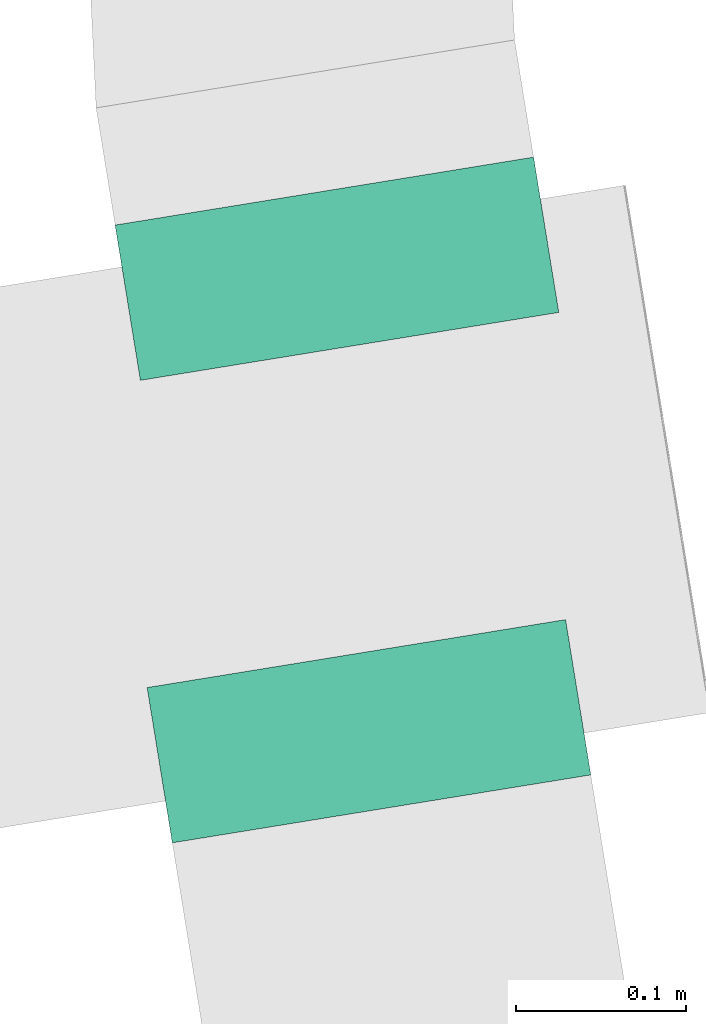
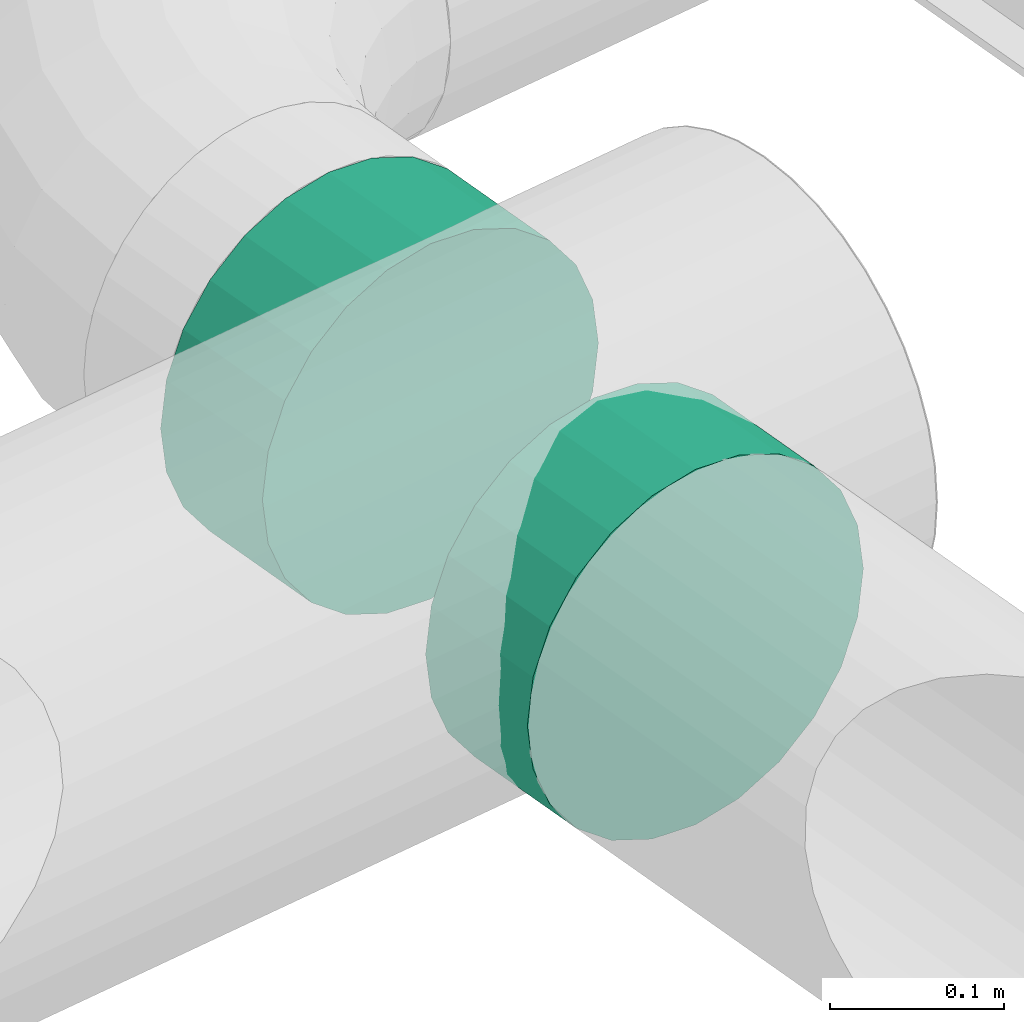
# One storey, part 22 of 39: 2 flow fittings.
"""IFC2X3 building model written with IfcOpenShell, lengths in millimetres."""

import ifcopenshell
import ifcopenshell.guid

model = None  # the IFC model being written
_history = None  # IfcOwnerHistory: only IFC2X3 demands one
_inside = {}  # id of a spatial element -> (the spatial element, [elements in it])
_under = {}  # id of a project, library or spatial element -> (it, [spatial elements below it])
_declared = {}  # id of a project -> (the project, [libraries it declares])
_typed = {}  # id of a type object -> (the type object, [elements of that type])
_made_of = {}  # id of a material, layer set ... -> (it, [elements and type objects made of it])


def new_model(schema):
    """Start an empty IFC model of exactly this schema.

    Asked for "IFC4X3", IfcOpenShell would pick the latest addendum, in which some entities
    have other attributes; the version numbers below select the first issue.
    IFC2X3 requires an IfcOwnerHistory on every rooted entity: one is made here for all.
    """
    global model, _history
    if schema == "IFC4X3":
        model = ifcopenshell.file(schema_version=(4, 3, 0, 0))
    else:
        model = ifcopenshell.file(schema=schema)
    _inside.clear()
    _under.clear()
    _declared.clear()
    _typed.clear()
    _made_of.clear()
    _history = None
    if model.schema == "IFC2X3":
        org = make("IfcOrganization", Name="unknown")
        user = make(
            "IfcPersonAndOrganization",
            ThePerson=make("IfcPerson", FamilyName="unknown"),
            TheOrganization=org,
        )
        app = make(
            "IfcApplication",
            ApplicationDeveloper=org,
            Version="unknown",
            ApplicationFullName="unknown",
            ApplicationIdentifier="unknown",
        )
        _history = make(
            "IfcOwnerHistory",
            OwningUser=user,
            OwningApplication=app,
            ChangeAction="ADDED",
            CreationDate=0,
        )
    return model


def make(cls, **values):
    """One entity of the class cls with the attributes given. An attribute that is None is left unset."""
    return model.create_entity(
        cls, **{name: value for name, value in values.items() if value is not None}
    )


def entity(cls, *values):
    """Any entity or typed value of the class cls, its attributes in the order of the schema. None: left unset."""
    e = model.create_entity(cls)
    for i, value in enumerate(values):
        if value is not None:
            e[i] = value
    return e


def rooted(cls, **values):
    """An entity with a GlobalId (a new one), such as an element, a storey or a relation."""
    return make(cls, GlobalId=ifcopenshell.guid.new(), OwnerHistory=_history, **values)


def si_unit(unit_type, name, prefix=None):
    """IfcSIUnit, for example si_unit("LENGTHUNIT", "METRE", prefix="MILLI")."""
    return make("IfcSIUnit", UnitType=unit_type, Prefix=prefix, Name=name)


def converted_unit(unit_type, name, factor, base, dimensions=None, offset=None):
    """IfcConversionBasedUnit, such as the inch: factor (a typed value) times the base unit."""
    return make(
        "IfcConversionBasedUnit"
        if offset is None
        else "IfcConversionBasedUnitWithOffset",
        ConversionOffset=offset,
        Dimensions=None
        if dimensions is None
        else entity("IfcDimensionalExponents", *dimensions),
        UnitType=unit_type,
        Name=name,
        ConversionFactor=make(
            "IfcMeasureWithUnit", ValueComponent=factor, UnitComponent=base
        ),
    )


def derived_unit(unit_type, elements):
    """IfcDerivedUnit: a product of units, each with its exponent."""
    return make(
        "IfcDerivedUnit",
        Elements=[
            make("IfcDerivedUnitElement", Unit=unit, Exponent=power)
            for unit, power in elements
        ],
        UnitType=unit_type,
    )


def assignment(units):
    """IfcUnitAssignment: the units of a project."""
    return None if units is None else make("IfcUnitAssignment", Units=units)


def point(xyz):
    """IfcCartesianPoint."""
    return None if xyz is None else make("IfcCartesianPoint", Coordinates=xyz)


def direction(xyz):
    """IfcDirection."""
    return None if xyz is None else make("IfcDirection", DirectionRatios=xyz)


def frame(location, z_axis=None, x_axis=None):
    """IfcAxis2Placement3D, a coordinate frame: its origin and axes. An axis left out is left unset."""
    return make(
        "IfcAxis2Placement3D",
        Location=point(location),
        Axis=direction(z_axis),
        RefDirection=direction(x_axis),
    )


def origin():
    """The frame at (0, 0, 0) with its axes left unset."""
    return frame((0.0, 0.0, 0.0))


def origin_with_axes():
    """The frame at (0, 0, 0) with the z axis (0, 0, 1) and the x axis (1, 0, 0) written out."""
    return frame((0.0, 0.0, 0.0), z_axis=(0.0, 0.0, 1.0), x_axis=(1.0, 0.0, 0.0))


def place(relative_to, where):
    """IfcLocalPlacement: puts the frame where relative to a parent placement (None: the world)."""
    return make(
        "IfcLocalPlacement", PlacementRelTo=relative_to, RelativePlacement=where
    )


def context(
    kind, dimensions, precision=None, world=None, true_north=None, identifier=None
):
    """IfcGeometricRepresentationContext, for example the 3D "Model" context."""
    return make(
        "IfcGeometricRepresentationContext",
        ContextIdentifier=identifier,
        ContextType=kind,
        CoordinateSpaceDimension=dimensions,
        Precision=precision,
        WorldCoordinateSystem=world,
        TrueNorth=true_north,
    )


def subcontext(parent, identifier, kind, view, scale=None):
    """IfcGeometricRepresentationSubContext, for example "Body" below "Model"."""
    return make(
        "IfcGeometricRepresentationSubContext",
        ContextIdentifier=identifier,
        ContextType=kind,
        ParentContext=parent,
        TargetScale=scale,
        TargetView=view,
    )


def project(units=None, contexts=None):
    """IfcProject with its units and contexts."""
    return rooted(
        "IfcProject",
        Name="project",
        RepresentationContexts=contexts,
        UnitsInContext=assignment(units),
    )


def spatial(cls, under=None, at=None, **own):
    """A site, building, storey or space (cls), placed at a placement, below another one or the project."""
    s = rooted(cls, ObjectPlacement=at, **own)
    if under is not None:
        _under.setdefault(under.id(), (under, []))[1].append(s)
    return s


def faces_of(points, faces, orient=None, outer=None):
    """IfcFace entities. A face is a list of loops; a loop is a list of indices into points, from 0.

    orient and outer hold one flag for each loop. By default every Orientation is true, the
    first loop of a face is its IfcFaceOuterBound and the others are IfcFaceBound.
    """
    made = []
    for i, loops in enumerate(faces):
        bounds = []
        for j, loop in enumerate(loops):
            is_outer = j == 0 if outer is None else outer[i][j]
            bounds.append(
                make(
                    "IfcFaceOuterBound" if is_outer else "IfcFaceBound",
                    Bound=make("IfcPolyLoop", Polygon=[points[k] for k in loop]),
                    Orientation=True if orient is None else orient[i][j],
                )
            )
        made.append(make("IfcFace", Bounds=bounds))
    return made


def faceted_brep(points, faces, orient=None, outer=None, voids=None):
    """IfcFacetedBrep: a solid bounded by flat faces; with voids (closed shells), ...WithVoids."""
    shared = [point(p) for p in points]
    hull = make("IfcClosedShell", CfsFaces=faces_of(shared, faces, orient, outer))
    if voids is None:
        return make("IfcFacetedBrep", Outer=hull)
    return make(
        "IfcFacetedBrepWithVoids",
        Outer=hull,
        Voids=[
            make(cls, CfsFaces=faces_of(shared, fs, o, b)) for cls, fs, o, b in voids
        ],
    )


def shape(context_of_items, identifier, shape_type, items):
    """IfcShapeRepresentation: the items that make up one representation, for example the "Body"."""
    return make(
        "IfcShapeRepresentation",
        ContextOfItems=context_of_items,
        RepresentationIdentifier=identifier,
        RepresentationType=shape_type,
        Items=items,
    )


def source(mapping_origin, context_of_items, identifier, shape_type, items):
    """IfcRepresentationMap: a shape defined once, which mapped items show again and again."""
    return make(
        "IfcRepresentationMap",
        MappingOrigin=mapping_origin,
        MappedRepresentation=shape(context_of_items, identifier, shape_type, items),
    )


def transform(
    local_origin,
    x_axis=None,
    y_axis=None,
    z_axis=None,
    scale=None,
    scale2=None,
    scale3=None,
    uniform=True,
):
    """IfcCartesianTransformationOperator3D, or its non-uniform kind. x_axis, y_axis, z_axis: its Axis1, 2, 3."""
    if uniform:
        return make(
            "IfcCartesianTransformationOperator3D",
            Axis1=direction(x_axis),
            Axis2=direction(y_axis),
            LocalOrigin=point(local_origin),
            Scale=scale,
            Axis3=direction(z_axis),
        )
    return make(
        "IfcCartesianTransformationOperator3DnonUniform",
        Axis1=direction(x_axis),
        Axis2=direction(y_axis),
        LocalOrigin=point(local_origin),
        Scale=scale,
        Axis3=direction(z_axis),
        Scale2=scale2,
        Scale3=scale3,
    )


def mapped(mapping_source, mapping_target):
    """IfcMappedItem: shows the shape of a source again, moved by a transform."""
    return make(
        "IfcMappedItem", MappingSource=mapping_source, MappingTarget=mapping_target
    )


def material(Name=None, Category=None):
    """IfcMaterial."""
    return make("IfcMaterial", Name=Name, Category=Category)


def made_of(thing, what):
    """Note that an element or type object is made of a material, layer set ...; save() writes the relation."""
    if what is not None:
        _made_of.setdefault(what.id(), (what, []))[1].append(thing)
    return thing


def type_object(cls, material=None, **own):
    """A type object (cls), such as IfcWallType, which elements share."""
    return made_of(rooted(cls, **own), material)


def element(
    cls,
    number,
    at=None,
    inside=None,
    cuts=None,
    type_object=None,
    material=None,
    context=None,
    identifier="Body",
    shape_type=None,
    held_by="IfcProductDefinitionShape",
    body=None,
    shapes=None,
    **own,
):
    """One element of the class cls, such as IfcWall. Its Tag is "e" and its number.

    at: its placement. inside: the storey or other place that contains it. cuts: it is an
    opening in that element (IfcRelVoidsElement). A single representation is given by context,
    identifier, shape_type and body (its items); several are given by shapes. held_by: the class
    of the entity that holds the representations. save() writes the other relations.
    """
    e = rooted(cls, Tag="e%d" % number, ObjectPlacement=at, **own)
    if body is not None:
        shapes = [shape(context, identifier, shape_type, body)]
    if shapes is not None:
        e.Representation = make(held_by, Representations=shapes)
    if inside is not None:
        _inside.setdefault(inside.id(), (inside, []))[1].append(e)
    if cuts is not None:
        rooted(
            "IfcRelVoidsElement", RelatingBuildingElement=cuts, RelatedOpeningElement=e
        )
    if type_object is not None:
        _typed.setdefault(type_object.id(), (type_object, []))[1].append(e)
    return made_of(e, material)


def aggregate(whole, parts):
    """IfcRelAggregates: a whole, such as a stair, and the parts it consists of."""
    return rooted("IfcRelAggregates", RelatingObject=whole, RelatedObjects=parts)


def save(model, path):
    """Write the relations noted so far, then the file.

    IfcRelAggregates (storeys below a building ...), IfcRelContainedInSpatialStructure (elements
    in a storey), IfcRelDefinesByType, IfcRelAssociatesMaterial and IfcRelDeclares: one each for
    every whole, place, type object, material and project.
    """
    for whole, parts in _under.values():
        aggregate(whole, parts)
    for where, things in _inside.values():
        rooted(
            "IfcRelContainedInSpatialStructure",
            RelatedElements=things,
            RelatingStructure=where,
        )
    for kind, things in _typed.values():
        rooted("IfcRelDefinesByType", RelatedObjects=things, RelatingType=kind)
    for what, things in _made_of.values():
        rooted("IfcRelAssociatesMaterial", RelatedObjects=things, RelatingMaterial=what)
    for by, libraries in _declared.values():
        rooted("IfcRelDeclares", RelatingContext=by, RelatedDefinitions=libraries)
    model.write(path)


model = new_model("IFC2X3")

# Units and contexts
plan_context = context("Plan", 3, precision=1e-05, world=origin_with_axes())
model_context = context("Model", 3, precision=0.01, world=origin(), true_north=direction((6.12323399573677e-17, 1.0)))
body_context = subcontext(model_context, "Body", "Model", "MODEL_VIEW")
ifc_project = project(units=[converted_unit("PLANEANGLEUNIT", "DEGREE", entity("IfcPositiveLengthMeasure", 0.0174532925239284), si_unit("PLANEANGLEUNIT", "RADIAN"), dimensions=[0, 0, 0, 0, 0, 0, 0]), si_unit("AREAUNIT", "SQUARE_METRE"), si_unit("LENGTHUNIT", "METRE", prefix="MILLI"), si_unit("MASSUNIT", "GRAM", prefix="KILO"), si_unit("POWERUNIT", "WATT"), si_unit("PRESSUREUNIT", "PASCAL", prefix="KILO"), si_unit("FORCEUNIT", "NEWTON", prefix="KILO"), si_unit("ELECTRICVOLTAGEUNIT", "VOLT"), si_unit("ELECTRICCURRENTUNIT", "AMPERE"), si_unit("THERMODYNAMICTEMPERATUREUNIT", "DEGREE_CELSIUS"), si_unit("TIMEUNIT", "SECOND"), si_unit("VOLUMEUNIT", "CUBIC_METRE"), derived_unit("LINEARVELOCITYUNIT", [(si_unit("LENGTHUNIT", "METRE"), 1), (si_unit("TIMEUNIT", "SECOND"), -1)]), derived_unit("VOLUMETRICFLOWRATEUNIT", [(si_unit("VOLUMEUNIT", "CUBIC_METRE"), 1), (si_unit("TIMEUNIT", "SECOND"), -1)]), derived_unit("THERMALTRANSMITTANCEUNIT", [(si_unit("POWERUNIT", "WATT"), 1), (si_unit("THERMODYNAMICTEMPERATUREUNIT", "KELVIN"), -1), (si_unit("AREAUNIT", "SQUARE_METRE"), -1)]), derived_unit("SOUNDPRESSUREUNIT", [(si_unit("PRESSUREUNIT", "PASCAL"), 1)])], contexts=[model_context, plan_context])

# Site, building, storey
site_placement = place(None, frame((-0.00071070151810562, 0.00438415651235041, 0.0), z_axis=(0.0, 0.0, 1.0), x_axis=(-0.160236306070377, 0.987078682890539, 0.0)))
site = spatial("IfcSite", under=ifc_project, at=site_placement, Name="Default", CompositionType="ELEMENT")
building_placement = place(site_placement, origin_with_axes())
building = spatial("IfcBuilding", under=site, at=building_placement, CompositionType="ELEMENT")
storey_placement = place(building_placement, frame((0.0, 0.0, 58999.9999999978), z_axis=(0.0, 0.0, 1.0), x_axis=(1.0, 0.0, 0.0)))
storey = spatial("IfcBuildingStorey", under=building, at=storey_placement, Name="Nivå F", CompositionType="ELEMENT", Elevation=58999.9999999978)

# Flow fittings
ifc_material = material(Name="<Unnamed>")
duct_fitting_type_1 = type_object("IfcDuctFittingType", Name="magicirc_tapoutlet_1:magicirc_tapoutlet_001", PredefinedType="NOTDEFINED", material=ifc_material)
shared_shape_1 = source(origin(), body_context, "Body", "Brep", [
    faceted_brep([(-67.7771605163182, 0.0, -125.0), (-67.7771605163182, -32.3523806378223, -120.740728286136), (-67.7771605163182, -62.5000000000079, -108.253175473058), (-67.7771605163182, -88.388347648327, -88.3883476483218), (-67.7771605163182, -108.253175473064, -62.5000000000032), (-67.7771605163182, -120.740728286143, -32.352380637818), (-67.7771605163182, -125.0, 0.0), (-67.7771605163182, -120.740728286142, 32.3523806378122), (-67.7771605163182, -108.253175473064, 62.4999999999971), (-67.7771605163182, -88.3883476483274, 88.3883476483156), (-67.7771605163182, -62.5000000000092, 108.253175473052), (-67.7771605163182, -32.3523806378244, 120.740728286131), (-67.7771605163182, 0.0, 125.0), (-67.7771605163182, 32.3523806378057, 120.740728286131), (-67.7771605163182, 62.4999999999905, 108.253175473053), (-67.7771605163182, 88.388347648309, 88.3883476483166), (-67.7771605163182, 108.253175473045, 62.4999999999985), (-67.7771605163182, 120.740728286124, 32.3523806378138), (-67.7771605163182, 125.0, 0.0), (-67.7771605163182, 120.740728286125, -32.3523806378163), (-67.7771605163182, 108.253175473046, -62.500000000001), (-67.7771605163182, 88.3883476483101, -88.3883476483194), (-67.7771605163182, 62.4999999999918, -108.253175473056), (-67.7771605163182, 32.3523806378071, -120.740728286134), (0.0, 0.0, 125.0), (25.0, 0.0, 125.0), (25.0, 32.3523806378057, 120.740728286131), (0.0, 32.3523806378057, 120.740728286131), (25.0, 62.4999999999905, 108.253175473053), (0.0, 62.4999999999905, 108.253175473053), (25.0, 88.388347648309, 88.3883476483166), (0.0, 88.388347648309, 88.3883476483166), (0.0, 108.253175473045, 62.4999999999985), (25.0, 108.253175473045, 62.4999999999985), (25.0, 120.740728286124, 32.3523806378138), (0.0, 120.740728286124, 32.3523806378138), (25.0, 125.0, 0.0), (0.0, 125.0, 0.0), (25.0, 120.740728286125, -32.3523806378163), (0.0, 120.740728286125, -32.3523806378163), (25.0, 108.253175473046, -62.500000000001), (0.0, 108.253175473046, -62.500000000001), (25.0, 88.3883476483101, -88.3883476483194), (0.0, 88.3883476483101, -88.3883476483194), (0.0, 62.4999999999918, -108.253175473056), (25.0, 62.4999999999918, -108.253175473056), (25.0, 32.3523806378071, -120.740728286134), (0.0, 32.3523806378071, -120.740728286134), (25.0, 0.0, -125.0), (0.0, 0.0, -125.0), (25.0, -32.3523806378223, -120.740728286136), (0.0, -32.3523806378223, -120.740728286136), (25.0, -62.5000000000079, -108.253175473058), (0.0, -62.5000000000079, -108.253175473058), (25.0, -88.388347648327, -88.3883476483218), (0.0, -88.388347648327, -88.3883476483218), (0.0, -108.253175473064, -62.5000000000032), (25.0, -108.253175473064, -62.5000000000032), (25.0, -120.740728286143, -32.352380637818), (0.0, -120.740728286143, -32.352380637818), (25.0, -125.0, 0.0), (0.0, -125.0, 0.0), (25.0, -120.740728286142, 32.3523806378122), (0.0, -120.740728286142, 32.3523806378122), (25.0, -108.253175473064, 62.4999999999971), (0.0, -108.253175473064, 62.4999999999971), (25.0, -88.3883476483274, 88.3883476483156), (0.0, -88.3883476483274, 88.3883476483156), (0.0, -62.5000000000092, 108.253175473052), (25.0, -62.5000000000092, 108.253175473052), (25.0, -32.3523806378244, 120.740728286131), (0.0, -32.3523806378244, 120.740728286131)], [[[0, 1, 2, 3, 4, 5, 6, 7, 8, 9, 10, 11, 12, 13, 14, 15, 16, 17, 18, 19, 20, 21, 22, 23]], [[12, 24, 25, 26, 27, 13]], [[13, 27, 26, 28, 29, 14]], [[15, 14, 29, 28, 30, 31]], [[17, 16, 32, 33, 34, 35]], [[18, 17, 35, 34, 36, 37]], [[15, 31, 30, 33, 32, 16]], [[18, 37, 36, 38, 39, 19]], [[19, 39, 38, 40, 41, 20]], [[21, 20, 41, 40, 42, 43]], [[23, 22, 44, 45, 46, 47]], [[0, 23, 47, 46, 48, 49]], [[21, 43, 42, 45, 44, 22]], [[0, 49, 48, 50, 51, 1]], [[1, 51, 50, 52, 53, 2]], [[3, 2, 53, 52, 54, 55]], [[5, 4, 56, 57, 58, 59]], [[6, 5, 59, 58, 60, 61]], [[3, 55, 54, 57, 56, 4]], [[6, 61, 60, 62, 63, 7]], [[7, 63, 62, 64, 65, 8]], [[9, 8, 65, 64, 66, 67]], [[11, 10, 68, 69, 70, 71]], [[12, 11, 71, 70, 25, 24]], [[9, 67, 66, 69, 68, 10]], [[34, 33, 30, 28, 26, 25, 70, 69, 66, 64, 62, 60, 58, 57, 54, 52, 50, 48, 46, 45, 42, 40, 38, 36]]]),
    faceted_brep([(25.0, 125.0, 0.0), (25.0, 120.740728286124, 32.3523806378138), (25.0, 108.253175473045, 62.4999999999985), (25.0, 88.3883476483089, 88.3883476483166), (25.0, 62.4999999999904, 108.253175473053), (25.0, 32.3523806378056, 120.740728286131), (25.0, 0.0, 125.0), (25.0, -32.3523806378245, 120.740728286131), (25.0, -62.5000000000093, 108.253175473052), (25.0, -88.3883476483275, 88.3883476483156), (25.0, -108.253175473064, 62.4999999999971), (25.0, -120.740728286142, 32.3523806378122), (25.0, -125.0, 0.0), (25.0, -120.740728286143, -32.352380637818), (25.0, -108.253175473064, -62.5000000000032), (25.0, -88.3883476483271, -88.3883476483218), (25.0, -62.500000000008, -108.253175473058), (25.0, -32.3523806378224, -120.740728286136), (25.0, 0.0, -125.0), (25.0, 32.352380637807, -120.740728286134), (25.0, 62.4999999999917, -108.253175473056), (25.0, 88.38834764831, -88.3883476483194), (25.0, 108.253175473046, -62.500000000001), (25.0, 120.740728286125, -32.3523806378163), (0.0, 0.0, 125.0), (0.0, 32.3523806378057, 120.740728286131), (-67.7771605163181, 32.3523806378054, 120.740728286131), (-67.7771605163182, 0.0, 125.0), (0.0, 62.4999999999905, 108.253175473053), (-67.777160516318, 62.4999999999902, 108.253175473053), (0.0, 88.388347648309, 88.3883476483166), (-67.777160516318, 88.3883476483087, 88.3883476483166), (0.0, 108.253175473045, 62.4999999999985), (0.0, 120.740728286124, 32.3523806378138), (-67.7771605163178, 120.740728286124, 32.3523806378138), (-67.7771605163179, 108.253175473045, 62.4999999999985), (0.0, 125.0, 0.0), (-67.7771605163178, 125.0, 0.0), (0.0, 120.740728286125, -32.3523806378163), (-67.7771605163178, 120.740728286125, -32.3523806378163), (0.0, 108.253175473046, -62.500000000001), (-67.7771605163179, 108.253175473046, -62.500000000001), (0.0, 88.38834764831, -88.3883476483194), (-67.777160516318, 88.3883476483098, -88.3883476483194), (0.0, 0.0, -125.0), (-67.7771605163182, 0.0, -125.0), (-67.7771605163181, 32.3523806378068, -120.740728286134), (0.0, 32.352380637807, -120.740728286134), (-67.777160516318, 62.4999999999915, -108.253175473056), (0.0, 62.4999999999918, -108.253175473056), (0.0, -32.3523806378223, -120.740728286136), (-67.7771605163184, -32.3523806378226, -120.740728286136), (0.0, -62.5000000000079, -108.253175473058), (-67.7771605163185, -62.5000000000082, -108.253175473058), (0.0, -88.388347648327, -88.3883476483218), (-67.7771605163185, -88.3883476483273, -88.3883476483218), (0.0, -108.253175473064, -62.5000000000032), (0.0, -120.740728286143, -32.352380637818), (-67.7771605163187, -120.740728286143, -32.352380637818), (-67.7771605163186, -108.253175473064, -62.5000000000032), (0.0, -125.0, 0.0), (-67.7771605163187, -125.0, 0.0), (0.0, -120.740728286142, 32.3523806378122), (-67.7771605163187, -120.740728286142, 32.3523806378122), (0.0, -108.253175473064, 62.499999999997), (-67.7771605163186, -108.253175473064, 62.4999999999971), (0.0, -88.3883476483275, 88.3883476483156), (-67.7771605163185, -88.3883476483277, 88.3883476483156), (0.0, -62.5000000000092, 108.253175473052), (0.0, -32.3523806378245, 120.740728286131), (-67.7771605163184, -32.3523806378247, 120.740728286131), (-67.7771605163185, -62.5000000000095, 108.253175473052)], [[[0, 1, 2, 3, 4, 5, 6, 7, 8, 9, 10, 11, 12, 13, 14, 15, 16, 17, 18, 19, 20, 21, 22, 23]], [[24, 6, 5, 25, 26, 27]], [[25, 5, 4, 28, 29, 26]], [[28, 4, 3, 30, 31, 29]], [[32, 2, 1, 33, 34, 35]], [[33, 1, 0, 36, 37, 34]], [[30, 3, 2, 32, 35, 31]], [[36, 0, 23, 38, 39, 37]], [[38, 23, 22, 40, 41, 39]], [[40, 22, 21, 42, 43, 41]], [[19, 18, 44, 45, 46, 47]], [[20, 19, 47, 46, 48, 49]], [[42, 21, 20, 49, 48, 43]], [[44, 18, 17, 50, 51, 45]], [[50, 17, 16, 52, 53, 51]], [[52, 16, 15, 54, 55, 53]], [[56, 14, 13, 57, 58, 59]], [[57, 13, 12, 60, 61, 58]], [[54, 15, 14, 56, 59, 55]], [[60, 12, 11, 62, 63, 61]], [[62, 11, 10, 64, 65, 63]], [[64, 10, 9, 66, 67, 65]], [[68, 8, 7, 69, 70, 71]], [[69, 7, 6, 24, 27, 70]], [[66, 9, 8, 68, 71, 67]], [[45, 51, 53, 55, 59, 58, 61, 63, 65, 67, 71, 70, 27, 26, 29, 31, 35, 34, 37, 39, 41, 43, 48, 46]]]),
    faceted_brep([(-67.7771605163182, 0.0, -125.0), (-67.7771605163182, -32.3523806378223, -120.740728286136), (-67.7771605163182, -62.5000000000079, -108.253175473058), (-67.7771605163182, -88.388347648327, -88.3883476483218), (-67.7771605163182, -108.253175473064, -62.5000000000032), (-67.7771605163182, -120.740728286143, -32.352380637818), (-67.7771605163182, -125.0, 0.0), (-67.7771605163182, -120.740728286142, 32.3523806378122), (-67.7771605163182, -108.253175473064, 62.4999999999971), (-67.7771605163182, -88.3883476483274, 88.3883476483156), (-67.7771605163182, -62.5000000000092, 108.253175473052), (-67.7771605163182, -32.3523806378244, 120.740728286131), (-67.7771605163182, 0.0, 125.0), (-67.7771605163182, 32.3523806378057, 120.740728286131), (-67.7771605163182, 62.4999999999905, 108.253175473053), (-67.7771605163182, 88.388347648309, 88.3883476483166), (-67.7771605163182, 108.253175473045, 62.4999999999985), (-67.7771605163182, 120.740728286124, 32.3523806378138), (-67.7771605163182, 125.0, 0.0), (-67.7771605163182, 120.740728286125, -32.3523806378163), (-67.7771605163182, 108.253175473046, -62.500000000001), (-67.7771605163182, 88.3883476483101, -88.3883476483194), (-67.7771605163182, 62.4999999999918, -108.253175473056), (-67.7771605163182, 32.3523806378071, -120.740728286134), (0.0, 0.0, 125.0), (25.0, 0.0, 125.0), (25.0, 32.3523806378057, 120.740728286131), (0.0, 32.3523806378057, 120.740728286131), (25.0, 62.4999999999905, 108.253175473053), (0.0, 62.4999999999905, 108.253175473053), (25.0, 88.388347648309, 88.3883476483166), (0.0, 88.388347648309, 88.3883476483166), (0.0, 108.253175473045, 62.4999999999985), (25.0, 108.253175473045, 62.4999999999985), (25.0, 120.740728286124, 32.3523806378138), (0.0, 120.740728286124, 32.3523806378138), (25.0, 125.0, 0.0), (0.0, 125.0, 0.0), (25.0, 120.740728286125, -32.3523806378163), (0.0, 120.740728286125, -32.3523806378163), (25.0, 108.253175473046, -62.500000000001), (0.0, 108.253175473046, -62.500000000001), (25.0, 88.3883476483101, -88.3883476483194), (0.0, 88.3883476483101, -88.3883476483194), (0.0, 62.4999999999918, -108.253175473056), (25.0, 62.4999999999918, -108.253175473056), (25.0, 32.3523806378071, -120.740728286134), (0.0, 32.3523806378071, -120.740728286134), (25.0, 0.0, -125.0), (0.0, 0.0, -125.0), (25.0, -32.3523806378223, -120.740728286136), (0.0, -32.3523806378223, -120.740728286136), (25.0, -62.5000000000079, -108.253175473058), (0.0, -62.5000000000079, -108.253175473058), (25.0, -88.388347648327, -88.3883476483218), (0.0, -88.388347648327, -88.3883476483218), (0.0, -108.253175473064, -62.5000000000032), (25.0, -108.253175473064, -62.5000000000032), (25.0, -120.740728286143, -32.352380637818), (0.0, -120.740728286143, -32.352380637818), (25.0, -125.0, 0.0), (0.0, -125.0, 0.0), (25.0, -120.740728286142, 32.3523806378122), (0.0, -120.740728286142, 32.3523806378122), (25.0, -108.253175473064, 62.4999999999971), (0.0, -108.253175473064, 62.4999999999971), (25.0, -88.3883476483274, 88.3883476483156), (0.0, -88.3883476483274, 88.3883476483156), (0.0, -62.5000000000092, 108.253175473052), (25.0, -62.5000000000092, 108.253175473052), (25.0, -32.3523806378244, 120.740728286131), (0.0, -32.3523806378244, 120.740728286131)], [[[0, 1, 2, 3, 4, 5, 6, 7, 8, 9, 10, 11, 12, 13, 14, 15, 16, 17, 18, 19, 20, 21, 22, 23]], [[12, 24, 25, 26, 27, 13]], [[13, 27, 26, 28, 29, 14]], [[15, 14, 29, 28, 30, 31]], [[17, 16, 32, 33, 34, 35]], [[18, 17, 35, 34, 36, 37]], [[15, 31, 30, 33, 32, 16]], [[18, 37, 36, 38, 39, 19]], [[19, 39, 38, 40, 41, 20]], [[21, 20, 41, 40, 42, 43]], [[23, 22, 44, 45, 46, 47]], [[0, 23, 47, 46, 48, 49]], [[21, 43, 42, 45, 44, 22]], [[0, 49, 48, 50, 51, 1]], [[1, 51, 50, 52, 53, 2]], [[3, 2, 53, 52, 54, 55]], [[5, 4, 56, 57, 58, 59]], [[6, 5, 59, 58, 60, 61]], [[3, 55, 54, 57, 56, 4]], [[6, 61, 60, 62, 63, 7]], [[7, 63, 62, 64, 65, 8]], [[9, 8, 65, 64, 66, 67]], [[11, 10, 68, 69, 70, 71]], [[12, 11, 71, 70, 25, 24]], [[9, 67, 66, 69, 68, 10]], [[34, 33, 30, 28, 26, 25, 70, 69, 66, 64, 62, 60, 58, 57, 54, 52, 50, 48, 46, 45, 42, 40, 38, 36]]]),
])
flow_fitting_1_placement = place(storey_placement, frame((777840.119644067, -506090.980498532, 3130.0), z_axis=(0.0, 0.0, -1.0), x_axis=(-1.0, 0.0, 0.0)))
element("IfcFlowFitting", 1, at=flow_fitting_1_placement, inside=storey, type_object=duct_fitting_type_1, material=ifc_material, Name="magicirc_tapoutlet_1:magicirc_tapoutlet_001", ObjectType="magicirc_tapoutlet_1:magicirc_tapoutlet_001", context=body_context, shape_type="MappedRepresentation", body=[
    mapped(shared_shape_1, transform((0.0, 0.0, 0.0), scale=1.0)),
])
duct_fitting_type_2 = type_object("IfcDuctFittingType", Name="magicirc_tapoutlet_1:magicirc_tapoutlet_001", PredefinedType="NOTDEFINED", material=ifc_material)
shared_shape_2 = source(origin(), body_context, "Body", "Brep", [
    faceted_brep([(-67.7771605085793, -120.740728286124, 32.3523806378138), (-67.7771605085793, -108.253175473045, 62.4999999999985), (-67.7771605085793, -88.388347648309, 88.3883476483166), (-67.7771605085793, -62.4999999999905, 108.253175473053), (-67.7771605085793, -32.3523806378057, 120.740728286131), (-67.7771605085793, 0.0, 125.0), (-67.7771605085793, 32.3523806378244, 120.740728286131), (-67.7771605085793, 62.5000000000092, 108.253175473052), (-67.7771605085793, 88.3883476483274, 88.3883476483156), (-67.7771605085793, 108.253175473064, 62.4999999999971), (-67.7771605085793, 120.740728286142, 32.3523806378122), (-67.7771605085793, 125.0, 0.0), (-67.7771605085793, 120.740728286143, -32.352380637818), (-67.7771605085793, 108.253175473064, -62.5000000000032), (-67.7771605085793, 88.388347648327, -88.3883476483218), (-67.7771605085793, 62.5000000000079, -108.253175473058), (-67.7771605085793, 32.3523806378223, -120.740728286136), (-67.7771605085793, 0.0, -125.0), (-67.7771605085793, -32.3523806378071, -120.740728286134), (-67.7771605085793, -62.4999999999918, -108.253175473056), (-67.7771605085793, -88.3883476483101, -88.3883476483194), (-67.7771605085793, -108.253175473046, -62.500000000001), (-67.7771605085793, -120.740728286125, -32.3523806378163), (-67.7771605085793, -125.0, 0.0), (0.0, -32.3523806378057, 120.740728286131), (25.0, -32.3523806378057, 120.740728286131), (25.0, 0.0, 125.0), (0.0, 0.0, 125.0), (0.0, -62.4999999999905, 108.253175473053), (25.0, -62.4999999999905, 108.253175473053), (0.0, -88.388347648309, 88.3883476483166), (25.0, -88.388347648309, 88.3883476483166), (0.0, -120.740728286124, 32.3523806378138), (25.0, -120.740728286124, 32.3523806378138), (25.0, -108.253175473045, 62.4999999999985), (0.0, -108.253175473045, 62.4999999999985), (0.0, -125.0, 0.0), (25.0, -125.0, 0.0), (0.0, -120.740728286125, -32.3523806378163), (25.0, -120.740728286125, -32.3523806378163), (0.0, -108.253175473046, -62.500000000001), (25.0, -108.253175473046, -62.500000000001), (0.0, -88.3883476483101, -88.3883476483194), (25.0, -88.3883476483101, -88.3883476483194), (0.0, -32.3523806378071, -120.740728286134), (25.0, -32.3523806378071, -120.740728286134), (25.0, -62.4999999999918, -108.253175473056), (0.0, -62.4999999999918, -108.253175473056), (0.0, 0.0, -125.0), (25.0, 0.0, -125.0), (0.0, 32.3523806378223, -120.740728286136), (25.0, 32.3523806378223, -120.740728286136), (0.0, 62.5000000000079, -108.253175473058), (25.0, 62.5000000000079, -108.253175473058), (0.0, 88.388347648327, -88.3883476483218), (25.0, 88.388347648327, -88.3883476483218), (0.0, 120.740728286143, -32.352380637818), (25.0, 120.740728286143, -32.352380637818), (25.0, 108.253175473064, -62.5000000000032), (0.0, 108.253175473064, -62.5000000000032), (0.0, 125.0, 0.0), (25.0, 125.0, 0.0), (0.0, 120.740728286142, 32.3523806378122), (25.0, 120.740728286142, 32.3523806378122), (0.0, 108.253175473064, 62.4999999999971), (25.0, 108.253175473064, 62.4999999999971), (0.0, 88.3883476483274, 88.3883476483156), (25.0, 88.3883476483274, 88.3883476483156), (0.0, 32.3523806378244, 120.740728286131), (25.0, 32.3523806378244, 120.740728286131), (25.0, 62.5000000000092, 108.253175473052), (0.0, 62.5000000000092, 108.253175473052)], [[[0, 1, 2, 3, 4, 5, 6, 7, 8, 9, 10, 11, 12, 13, 14, 15, 16, 17, 18, 19, 20, 21, 22, 23]], [[24, 25, 26, 27, 5, 4]], [[28, 29, 25, 24, 4, 3]], [[30, 31, 29, 28, 3, 2]], [[32, 33, 34, 35, 1, 0]], [[36, 37, 33, 32, 0, 23]], [[1, 35, 34, 31, 30, 2]], [[38, 39, 37, 36, 23, 22]], [[40, 41, 39, 38, 22, 21]], [[42, 43, 41, 40, 21, 20]], [[44, 45, 46, 47, 19, 18]], [[48, 49, 45, 44, 18, 17]], [[19, 47, 46, 43, 42, 20]], [[50, 51, 49, 48, 17, 16]], [[52, 53, 51, 50, 16, 15]], [[54, 55, 53, 52, 15, 14]], [[56, 57, 58, 59, 13, 12]], [[60, 61, 57, 56, 12, 11]], [[13, 59, 58, 55, 54, 14]], [[62, 63, 61, 60, 11, 10]], [[64, 65, 63, 62, 10, 9]], [[66, 67, 65, 64, 9, 8]], [[68, 69, 70, 71, 7, 6]], [[27, 26, 69, 68, 6, 5]], [[7, 71, 70, 67, 66, 8]], [[49, 51, 53, 55, 58, 57, 61, 63, 65, 67, 70, 69, 26, 25, 29, 31, 34, 33, 37, 39, 41, 43, 46, 45]]]),
    faceted_brep([(25.0, 0.0, -125.0), (25.0, 32.3523806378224, -120.740728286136), (25.0, 62.500000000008, -108.253175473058), (25.0, 88.3883476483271, -88.3883476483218), (25.0, 108.253175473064, -62.5000000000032), (25.0, 120.740728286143, -32.352380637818), (25.0, 125.0, 0.0), (25.0, 120.740728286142, 32.3523806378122), (25.0, 108.253175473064, 62.4999999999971), (25.0, 88.3883476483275, 88.3883476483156), (25.0, 62.5000000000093, 108.253175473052), (25.0, 32.3523806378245, 120.740728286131), (25.0, 0.0, 125.0), (25.0, -32.3523806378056, 120.740728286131), (25.0, -62.4999999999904, 108.253175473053), (25.0, -88.3883476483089, 88.3883476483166), (25.0, -108.253175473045, 62.4999999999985), (25.0, -120.740728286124, 32.3523806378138), (25.0, -125.0, 0.0), (25.0, -120.740728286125, -32.3523806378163), (25.0, -108.253175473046, -62.500000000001), (25.0, -88.38834764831, -88.3883476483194), (25.0, -62.4999999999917, -108.253175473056), (25.0, -32.352380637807, -120.740728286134), (0.0, 0.0, 125.0), (-67.7771605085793, 0.0, 125.0), (-67.7771605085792, -32.3523806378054, 120.740728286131), (0.0, -32.3523806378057, 120.740728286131), (-67.7771605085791, -62.4999999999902, 108.253175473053), (0.0, -62.4999999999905, 108.253175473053), (0.0, -88.388347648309, 88.3883476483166), (-67.777160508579, -88.3883476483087, 88.3883476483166), (0.0, -108.253175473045, 62.4999999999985), (-67.7771605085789, -108.253175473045, 62.4999999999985), (-67.7771605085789, -120.740728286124, 32.3523806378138), (0.0, -120.740728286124, 32.3523806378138), (-67.7771605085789, -125.0, 0.0), (0.0, -125.0, 0.0), (-67.7771605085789, -120.740728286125, -32.3523806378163), (0.0, -120.740728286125, -32.3523806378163), (-67.7771605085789, -108.253175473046, -62.500000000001), (0.0, -108.253175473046, -62.500000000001), (0.0, -88.38834764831, -88.3883476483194), (-67.777160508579, -88.3883476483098, -88.3883476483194), (0.0, 0.0, -125.0), (0.0, -32.352380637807, -120.740728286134), (-67.7771605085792, -32.3523806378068, -120.740728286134), (-67.7771605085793, 0.0, -125.0), (0.0, -62.4999999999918, -108.253175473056), (-67.7771605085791, -62.4999999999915, -108.253175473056), (-67.7771605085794, 32.3523806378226, -120.740728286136), (0.0, 32.3523806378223, -120.740728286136), (-67.7771605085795, 62.5000000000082, -108.253175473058), (0.0, 62.5000000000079, -108.253175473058), (0.0, 88.388347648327, -88.3883476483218), (-67.7771605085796, 88.3883476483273, -88.3883476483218), (0.0, 108.253175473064, -62.5000000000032), (-67.7771605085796, 108.253175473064, -62.5000000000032), (-67.7771605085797, 120.740728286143, -32.352380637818), (0.0, 120.740728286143, -32.352380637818), (-67.7771605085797, 125.0, 0.0), (0.0, 125.0, 0.0), (-67.7771605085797, 120.740728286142, 32.3523806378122), (0.0, 120.740728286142, 32.3523806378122), (-67.7771605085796, 108.253175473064, 62.4999999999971), (0.0, 108.253175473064, 62.499999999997), (0.0, 88.3883476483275, 88.3883476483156), (-67.7771605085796, 88.3883476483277, 88.3883476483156), (0.0, 62.5000000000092, 108.253175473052), (-67.7771605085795, 62.5000000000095, 108.253175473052), (-67.7771605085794, 32.3523806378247, 120.740728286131), (0.0, 32.3523806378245, 120.740728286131)], [[[0, 1, 2, 3, 4, 5, 6, 7, 8, 9, 10, 11, 12, 13, 14, 15, 16, 17, 18, 19, 20, 21, 22, 23]], [[13, 12, 24, 25, 26, 27]], [[14, 13, 27, 26, 28, 29]], [[30, 15, 14, 29, 28, 31]], [[17, 16, 32, 33, 34, 35]], [[18, 17, 35, 34, 36, 37]], [[32, 16, 15, 30, 31, 33]], [[19, 18, 37, 36, 38, 39]], [[20, 19, 39, 38, 40, 41]], [[42, 21, 20, 41, 40, 43]], [[44, 0, 23, 45, 46, 47]], [[45, 23, 22, 48, 49, 46]], [[48, 22, 21, 42, 43, 49]], [[1, 0, 44, 47, 50, 51]], [[2, 1, 51, 50, 52, 53]], [[54, 3, 2, 53, 52, 55]], [[5, 4, 56, 57, 58, 59]], [[6, 5, 59, 58, 60, 61]], [[56, 4, 3, 54, 55, 57]], [[7, 6, 61, 60, 62, 63]], [[8, 7, 63, 62, 64, 65]], [[66, 9, 8, 65, 64, 67]], [[11, 10, 68, 69, 70, 71]], [[12, 11, 71, 70, 25, 24]], [[68, 10, 9, 66, 67, 69]], [[34, 33, 31, 28, 26, 25, 70, 69, 67, 64, 62, 60, 58, 57, 55, 52, 50, 47, 46, 49, 43, 40, 38, 36]]]),
    faceted_brep([(-67.7771605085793, -120.740728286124, 32.3523806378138), (-67.7771605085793, -108.253175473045, 62.4999999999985), (-67.7771605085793, -88.388347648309, 88.3883476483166), (-67.7771605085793, -62.4999999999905, 108.253175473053), (-67.7771605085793, -32.3523806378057, 120.740728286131), (-67.7771605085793, 0.0, 125.0), (-67.7771605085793, 32.3523806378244, 120.740728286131), (-67.7771605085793, 62.5000000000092, 108.253175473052), (-67.7771605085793, 88.3883476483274, 88.3883476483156), (-67.7771605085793, 108.253175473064, 62.4999999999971), (-67.7771605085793, 120.740728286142, 32.3523806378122), (-67.7771605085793, 125.0, 0.0), (-67.7771605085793, 120.740728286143, -32.352380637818), (-67.7771605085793, 108.253175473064, -62.5000000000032), (-67.7771605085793, 88.388347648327, -88.3883476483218), (-67.7771605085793, 62.5000000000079, -108.253175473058), (-67.7771605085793, 32.3523806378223, -120.740728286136), (-67.7771605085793, 0.0, -125.0), (-67.7771605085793, -32.3523806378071, -120.740728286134), (-67.7771605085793, -62.4999999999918, -108.253175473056), (-67.7771605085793, -88.3883476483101, -88.3883476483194), (-67.7771605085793, -108.253175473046, -62.500000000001), (-67.7771605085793, -120.740728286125, -32.3523806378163), (-67.7771605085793, -125.0, 0.0), (0.0, -32.3523806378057, 120.740728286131), (25.0, -32.3523806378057, 120.740728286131), (25.0, 0.0, 125.0), (0.0, 0.0, 125.0), (0.0, -62.4999999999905, 108.253175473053), (25.0, -62.4999999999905, 108.253175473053), (0.0, -88.388347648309, 88.3883476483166), (25.0, -88.388347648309, 88.3883476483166), (0.0, -120.740728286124, 32.3523806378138), (25.0, -120.740728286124, 32.3523806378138), (25.0, -108.253175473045, 62.4999999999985), (0.0, -108.253175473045, 62.4999999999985), (0.0, -125.0, 0.0), (25.0, -125.0, 0.0), (0.0, -120.740728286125, -32.3523806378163), (25.0, -120.740728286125, -32.3523806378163), (0.0, -108.253175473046, -62.500000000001), (25.0, -108.253175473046, -62.500000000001), (0.0, -88.3883476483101, -88.3883476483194), (25.0, -88.3883476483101, -88.3883476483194), (0.0, -32.3523806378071, -120.740728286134), (25.0, -32.3523806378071, -120.740728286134), (25.0, -62.4999999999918, -108.253175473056), (0.0, -62.4999999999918, -108.253175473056), (0.0, 0.0, -125.0), (25.0, 0.0, -125.0), (0.0, 32.3523806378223, -120.740728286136), (25.0, 32.3523806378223, -120.740728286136), (0.0, 62.5000000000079, -108.253175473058), (25.0, 62.5000000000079, -108.253175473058), (0.0, 88.388347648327, -88.3883476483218), (25.0, 88.388347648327, -88.3883476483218), (0.0, 120.740728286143, -32.352380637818), (25.0, 120.740728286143, -32.352380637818), (25.0, 108.253175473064, -62.5000000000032), (0.0, 108.253175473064, -62.5000000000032), (0.0, 125.0, 0.0), (25.0, 125.0, 0.0), (0.0, 120.740728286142, 32.3523806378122), (25.0, 120.740728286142, 32.3523806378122), (0.0, 108.253175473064, 62.4999999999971), (25.0, 108.253175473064, 62.4999999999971), (0.0, 88.3883476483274, 88.3883476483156), (25.0, 88.3883476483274, 88.3883476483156), (0.0, 32.3523806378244, 120.740728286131), (25.0, 32.3523806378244, 120.740728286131), (25.0, 62.5000000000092, 108.253175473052), (0.0, 62.5000000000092, 108.253175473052)], [[[0, 1, 2, 3, 4, 5, 6, 7, 8, 9, 10, 11, 12, 13, 14, 15, 16, 17, 18, 19, 20, 21, 22, 23]], [[24, 25, 26, 27, 5, 4]], [[28, 29, 25, 24, 4, 3]], [[30, 31, 29, 28, 3, 2]], [[32, 33, 34, 35, 1, 0]], [[36, 37, 33, 32, 0, 23]], [[1, 35, 34, 31, 30, 2]], [[38, 39, 37, 36, 23, 22]], [[40, 41, 39, 38, 22, 21]], [[42, 43, 41, 40, 21, 20]], [[44, 45, 46, 47, 19, 18]], [[48, 49, 45, 44, 18, 17]], [[19, 47, 46, 43, 42, 20]], [[50, 51, 49, 48, 17, 16]], [[52, 53, 51, 50, 16, 15]], [[54, 55, 53, 52, 15, 14]], [[56, 57, 58, 59, 13, 12]], [[60, 61, 57, 56, 12, 11]], [[13, 59, 58, 55, 54, 14]], [[62, 63, 61, 60, 11, 10]], [[64, 65, 63, 62, 10, 9]], [[66, 67, 65, 64, 9, 8]], [[68, 69, 70, 71, 7, 6]], [[27, 26, 69, 68, 6, 5]], [[7, 71, 70, 67, 66, 8]], [[49, 51, 53, 55, 58, 57, 61, 63, 65, 67, 70, 69, 26, 25, 29, 31, 34, 33, 37, 39, 41, 43, 46, 45]]]),
])
flow_fitting_2_placement = place(storey_placement, frame((778155.119644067, -506116.06200566, 3130.0), z_axis=(0.0, 0.0, -1.0), x_axis=(1.0, 0.0, 0.0)))
element("IfcFlowFitting", 2, at=flow_fitting_2_placement, inside=storey, type_object=duct_fitting_type_2, material=ifc_material, Name="magicirc_tapoutlet_1:magicirc_tapoutlet_001", ObjectType="magicirc_tapoutlet_1:magicirc_tapoutlet_001", context=body_context, shape_type="MappedRepresentation", body=[
    mapped(shared_shape_2, transform((0.0, 0.0, 0.0), scale=1.0)),
])

save(model, "model.ifc")
